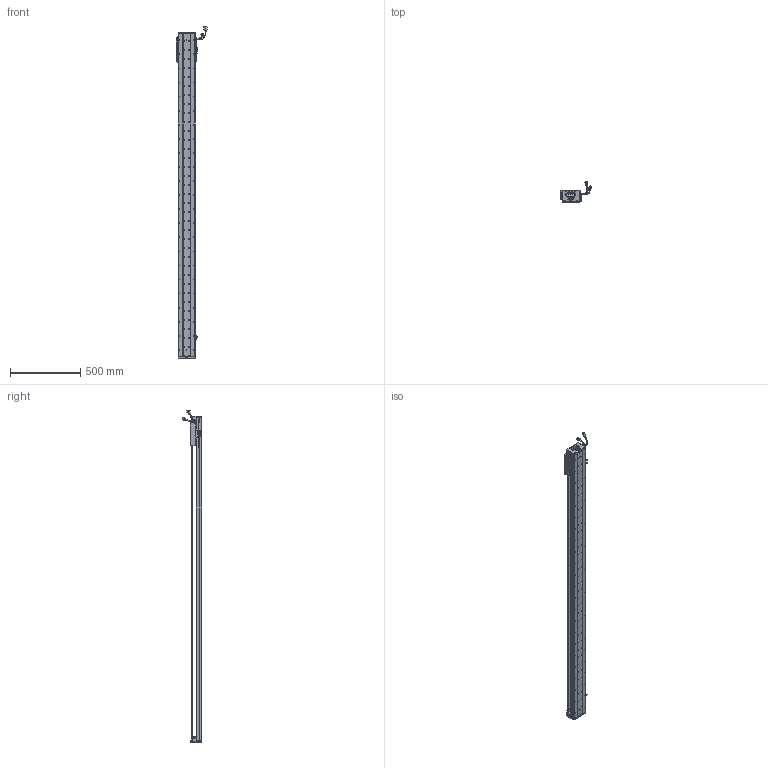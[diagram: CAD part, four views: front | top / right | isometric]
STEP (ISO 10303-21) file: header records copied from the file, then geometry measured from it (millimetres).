
FILE_DESCRIPTION (( 'STEP AP203' ), '1' );
FILE_NAME ('Z2-RY120D-1-L500-B-K.SLDASM_2050.step', '2021-05-17T05:37:51', ( '盈信电脑' ), ( '东莞市道滘镇水果街19号' ), 'SwSTEP 2.0', 'SolidWorks 2016', '' );
FILE_SCHEMA (( 'CONFIG_CONTROL_DESIGN' ));
Length unit declared in the file: millimetre
Products named in the file (37): 080黍杅芛假蚾釱21遴; SCREW-M1.7; SEAL-Part-1; HARNESS-Part-2; 120-Z-臏賑輸盄裔(21遴); Z2-RY120铝滑块（21款）; SCALE-Part-1; COVER-Part-1; 榋妏寠巭燃_暯_M2_2; LABEL; SCREW-M1.7-1; Z-120詩湍傷裔啣; Z2-RY120D-1-L500-B-K.SLDASM_2050; SCREW-M1.6-3; SCALE-Part-2; RY100FB-遵嫖萇覜茼え; 672嫖萇羲壽假蚾釱; SCALE; HARNESS; PSLH080_PSLF2; SCREW-M1.6-1; PBU_SHEET; SCREW-M1.6; SEAL; 140蚥薯蝶輸; HARNESS-Part-1; COVER; LABEL-Part-1; 覜茼ん672; Z-RY120D詩湍奻揤裔; Z-RY120D詩湍狟揤裔; SHIELDPLATE; Z2-RY120-L500詩湍100mm遵_2050; HOLDER0; SCREW-M1.6-2; Z2-RY120-500-倰第菁釱_2050; 140雄赽晤鎢ん堤盄
Assembly tree (43 placements, depth 4):
  Z2-RY120D-1-L500-B-K.SLDASM_2050
    Z2-RY120-500-倰第菁釱_2050
    覜茼ん672  x3
    672嫖萇羲壽假蚾釱  x2
    Z2-RY120铝滑块（21款）
    PSLH080_PSLF2
      SCALE
        SCALE-Part-1
        SCALE-Part-2
      HARNESS
        HARNESS-Part-1
        HARNESS-Part-2
      LABEL
        LABEL-Part-1
      COVER
        COVER-Part-1
      SEAL
        SEAL-Part-1
      榋妏寠巭燃_暯_M2_2
      SHIELDPLATE
      SCREW-M1.7
      SCREW-M1.7-1
      PBU_SHEET
      SCREW-M1.6
      SCREW-M1.6-1
      SCREW-M1.6-2
      SCREW-M1.6-3
      HOLDER0
    080黍杅芛假蚾釱21遴
    120-Z-臏賑輸盄裔(21遴)
    140雄赽晤鎢ん堤盄
    140蚥薯蝶輸  x2
    RY100FB-遵嫖萇覜茼え
    Z-120詩湍傷裔啣  x2
    Z-RY120D詩湍奻揤裔  x2
    Z-RY120D詩湍狟揤裔  x2
    Z2-RY120-L500詩湍100mm遵_2050
Bounding box: 222.88 x 140.94 x 2358.99 mm (x, y, z)
Volume: 5484389.8 mm3; surface area: 1934770.7 mm2
Topology: 38 solids, 38 shells, 3507 faces, 9916 edges, 6260 vertices
Faces by surface type: cylinder 1802, plane 1225, cone 358, torus 69, bspline 53
Entity records: 115917 total; most frequent: CARTESIAN_POINT 34920, ORIENTED_EDGE 16640, DIRECTION 15386, EDGE_CURVE 8320, AXIS2_PLACEMENT_3D 5676, VERTEX_POINT 5380, LINE 4034, VECTOR 4034
